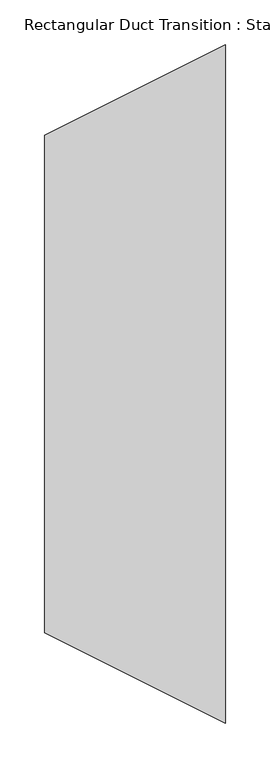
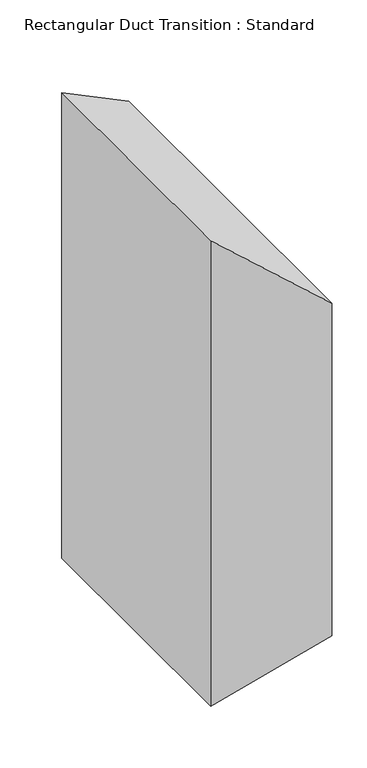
"""IFC4 building model written with IfcOpenShell, lengths in millimetres: duct fitting geometry, Rectangular Duct Transition : Standard."""

import ifcopenshell
import ifcopenshell.guid

model = None  # the IFC model being written
_history = None  # IfcOwnerHistory: only IFC2X3 demands one
_inside = {}  # id of a spatial element -> (the spatial element, [elements in it])
_under = {}  # id of a project, library or spatial element -> (it, [spatial elements below it])
_declared = {}  # id of a project -> (the project, [libraries it declares])
_typed = {}  # id of a type object -> (the type object, [elements of that type])
_made_of = {}  # id of a material, layer set ... -> (it, [elements and type objects made of it])


def new_model(schema):
    """Start an empty IFC model of exactly this schema.

    Asked for "IFC4X3", IfcOpenShell would pick the latest addendum, in which some entities
    have other attributes; the version numbers below select the first issue.
    IFC2X3 requires an IfcOwnerHistory on every rooted entity: one is made here for all.
    """
    global model, _history
    if schema == "IFC4X3":
        model = ifcopenshell.file(schema_version=(4, 3, 0, 0))
    else:
        model = ifcopenshell.file(schema=schema)
    _inside.clear()
    _under.clear()
    _declared.clear()
    _typed.clear()
    _made_of.clear()
    _history = None
    if model.schema == "IFC2X3":
        org = make("IfcOrganization", Name="unknown")
        user = make(
            "IfcPersonAndOrganization",
            ThePerson=make("IfcPerson", FamilyName="unknown"),
            TheOrganization=org,
        )
        app = make(
            "IfcApplication",
            ApplicationDeveloper=org,
            Version="unknown",
            ApplicationFullName="unknown",
            ApplicationIdentifier="unknown",
        )
        _history = make(
            "IfcOwnerHistory",
            OwningUser=user,
            OwningApplication=app,
            ChangeAction="ADDED",
            CreationDate=0,
        )
    return model


def make(cls, **values):
    """One entity of the class cls with the attributes given. An attribute that is None is left unset."""
    return model.create_entity(
        cls, **{name: value for name, value in values.items() if value is not None}
    )


def rooted(cls, **values):
    """An entity with a GlobalId (a new one), such as an element, a storey or a relation."""
    return make(cls, GlobalId=ifcopenshell.guid.new(), OwnerHistory=_history, **values)


def si_unit(unit_type, name, prefix=None):
    """IfcSIUnit, for example si_unit("LENGTHUNIT", "METRE", prefix="MILLI")."""
    return make("IfcSIUnit", UnitType=unit_type, Prefix=prefix, Name=name)


def assignment(units):
    """IfcUnitAssignment: the units of a project."""
    return None if units is None else make("IfcUnitAssignment", Units=units)


def point(xyz):
    """IfcCartesianPoint."""
    return None if xyz is None else make("IfcCartesianPoint", Coordinates=xyz)


def direction(xyz):
    """IfcDirection."""
    return None if xyz is None else make("IfcDirection", DirectionRatios=xyz)


def frame(location, z_axis=None, x_axis=None):
    """IfcAxis2Placement3D, a coordinate frame: its origin and axes. An axis left out is left unset."""
    return make(
        "IfcAxis2Placement3D",
        Location=point(location),
        Axis=direction(z_axis),
        RefDirection=direction(x_axis),
    )


def origin():
    """The frame at (0, 0, 0) with its axes left unset."""
    return frame((0.0, 0.0, 0.0))


def place(relative_to, where):
    """IfcLocalPlacement: puts the frame where relative to a parent placement (None: the world)."""
    return make(
        "IfcLocalPlacement", PlacementRelTo=relative_to, RelativePlacement=where
    )


def context(
    kind, dimensions, precision=None, world=None, true_north=None, identifier=None
):
    """IfcGeometricRepresentationContext, for example the 3D "Model" context."""
    return make(
        "IfcGeometricRepresentationContext",
        ContextIdentifier=identifier,
        ContextType=kind,
        CoordinateSpaceDimension=dimensions,
        Precision=precision,
        WorldCoordinateSystem=world,
        TrueNorth=true_north,
    )


def project(units=None, contexts=None):
    """IfcProject with its units and contexts."""
    return rooted(
        "IfcProject",
        Name="project",
        RepresentationContexts=contexts,
        UnitsInContext=assignment(units),
    )


def spatial(cls, under=None, at=None, **own):
    """A site, building, storey or space (cls), placed at a placement, below another one or the project."""
    s = rooted(cls, ObjectPlacement=at, **own)
    if under is not None:
        _under.setdefault(under.id(), (under, []))[1].append(s)
    return s


def faces_of(points, faces, orient=None, outer=None):
    """IfcFace entities. A face is a list of loops; a loop is a list of indices into points, from 0.

    orient and outer hold one flag for each loop. By default every Orientation is true, the
    first loop of a face is its IfcFaceOuterBound and the others are IfcFaceBound.
    """
    made = []
    for i, loops in enumerate(faces):
        bounds = []
        for j, loop in enumerate(loops):
            is_outer = j == 0 if outer is None else outer[i][j]
            bounds.append(
                make(
                    "IfcFaceOuterBound" if is_outer else "IfcFaceBound",
                    Bound=make("IfcPolyLoop", Polygon=[points[k] for k in loop]),
                    Orientation=True if orient is None else orient[i][j],
                )
            )
        made.append(make("IfcFace", Bounds=bounds))
    return made


def faceted_brep(points, faces, orient=None, outer=None, voids=None):
    """IfcFacetedBrep: a solid bounded by flat faces; with voids (closed shells), ...WithVoids."""
    shared = [point(p) for p in points]
    hull = make("IfcClosedShell", CfsFaces=faces_of(shared, faces, orient, outer))
    if voids is None:
        return make("IfcFacetedBrep", Outer=hull)
    return make(
        "IfcFacetedBrepWithVoids",
        Outer=hull,
        Voids=[
            make(cls, CfsFaces=faces_of(shared, fs, o, b)) for cls, fs, o, b in voids
        ],
    )


def shape(context_of_items, identifier, shape_type, items):
    """IfcShapeRepresentation: the items that make up one representation, for example the "Body"."""
    return make(
        "IfcShapeRepresentation",
        ContextOfItems=context_of_items,
        RepresentationIdentifier=identifier,
        RepresentationType=shape_type,
        Items=items,
    )


def source(mapping_origin, context_of_items, identifier, shape_type, items):
    """IfcRepresentationMap: a shape defined once, which mapped items show again and again."""
    return make(
        "IfcRepresentationMap",
        MappingOrigin=mapping_origin,
        MappedRepresentation=shape(context_of_items, identifier, shape_type, items),
    )


def transform(
    local_origin,
    x_axis=None,
    y_axis=None,
    z_axis=None,
    scale=None,
    scale2=None,
    scale3=None,
    uniform=True,
):
    """IfcCartesianTransformationOperator3D, or its non-uniform kind. x_axis, y_axis, z_axis: its Axis1, 2, 3."""
    if uniform:
        return make(
            "IfcCartesianTransformationOperator3D",
            Axis1=direction(x_axis),
            Axis2=direction(y_axis),
            LocalOrigin=point(local_origin),
            Scale=scale,
            Axis3=direction(z_axis),
        )
    return make(
        "IfcCartesianTransformationOperator3DnonUniform",
        Axis1=direction(x_axis),
        Axis2=direction(y_axis),
        LocalOrigin=point(local_origin),
        Scale=scale,
        Axis3=direction(z_axis),
        Scale2=scale2,
        Scale3=scale3,
    )


def mapped(mapping_source, mapping_target):
    """IfcMappedItem: shows the shape of a source again, moved by a transform."""
    return make(
        "IfcMappedItem", MappingSource=mapping_source, MappingTarget=mapping_target
    )


def made_of(thing, what):
    """Note that an element or type object is made of a material, layer set ...; save() writes the relation."""
    if what is not None:
        _made_of.setdefault(what.id(), (what, []))[1].append(thing)
    return thing


def element(
    cls,
    number,
    at=None,
    inside=None,
    cuts=None,
    type_object=None,
    material=None,
    context=None,
    identifier="Body",
    shape_type=None,
    held_by="IfcProductDefinitionShape",
    body=None,
    shapes=None,
    **own,
):
    """One element of the class cls, such as IfcWall. Its Tag is "e" and its number.

    at: its placement. inside: the storey or other place that contains it. cuts: it is an
    opening in that element (IfcRelVoidsElement). A single representation is given by context,
    identifier, shape_type and body (its items); several are given by shapes. held_by: the class
    of the entity that holds the representations. save() writes the other relations.
    """
    e = rooted(cls, Tag="e%d" % number, ObjectPlacement=at, **own)
    if body is not None:
        shapes = [shape(context, identifier, shape_type, body)]
    if shapes is not None:
        e.Representation = make(held_by, Representations=shapes)
    if inside is not None:
        _inside.setdefault(inside.id(), (inside, []))[1].append(e)
    if cuts is not None:
        rooted(
            "IfcRelVoidsElement", RelatingBuildingElement=cuts, RelatedOpeningElement=e
        )
    if type_object is not None:
        _typed.setdefault(type_object.id(), (type_object, []))[1].append(e)
    return made_of(e, material)


def aggregate(whole, parts):
    """IfcRelAggregates: a whole, such as a stair, and the parts it consists of."""
    return rooted("IfcRelAggregates", RelatingObject=whole, RelatedObjects=parts)


def save(model, path):
    """Write the relations noted so far, then the file.

    IfcRelAggregates (storeys below a building ...), IfcRelContainedInSpatialStructure (elements
    in a storey), IfcRelDefinesByType, IfcRelAssociatesMaterial and IfcRelDeclares: one each for
    every whole, place, type object, material and project.
    """
    for whole, parts in _under.values():
        aggregate(whole, parts)
    for where, things in _inside.values():
        rooted(
            "IfcRelContainedInSpatialStructure",
            RelatedElements=things,
            RelatingStructure=where,
        )
    for kind, things in _typed.values():
        rooted("IfcRelDefinesByType", RelatedObjects=things, RelatingType=kind)
    for what, things in _made_of.values():
        rooted("IfcRelAssociatesMaterial", RelatedObjects=things, RelatingMaterial=what)
    for by, libraries in _declared.values():
        rooted("IfcRelDeclares", RelatingContext=by, RelatedDefinitions=libraries)
    model.write(path)


def rectangular_duct_transition_standard_40ad1b43(model_context):
    return source(origin(), model_context, "Body", "Brep", [
        faceted_brep([(203.2, -381.0, 381.0), (203.2, -381.0, -381.0), (203.2, 381.0, -381.0), (203.2, 381.0, 381.0), (0.0, -279.4, 533.4), (0.0, 279.4, 533.4), (0.0, 279.4, -533.4), (0.0, -279.4, -533.4)], [[[0, 1, 2, 3]], [[4, 5, 6, 7]], [[4, 7, 1, 0]], [[7, 6, 2, 1]], [[6, 5, 3, 2]], [[5, 4, 0, 3]]]),
        faceted_brep([(203.2, -381.0, 381.0), (203.2, -381.0, -381.0), (203.2, 381.0, -381.0), (203.2, 381.0, 381.0), (0.0, -279.4, 533.4), (0.0, 279.4, 533.4), (0.0, 279.4, -533.4), (0.0, -279.4, -533.4)], [[[0, 1, 2, 3]], [[4, 5, 6, 7]], [[4, 7, 1, 0]], [[7, 6, 2, 1]], [[6, 5, 3, 2]], [[5, 4, 0, 3]]]),
        faceted_brep([(203.2, -381.0, 381.0), (203.2, -381.0, -381.0), (203.2, 381.0, -381.0), (203.2, 381.0, 381.0), (0.0, -279.4, 533.4), (0.0, 279.4, 533.4), (0.0, 279.4, -533.4), (0.0, -279.4, -533.4)], [[[0, 1, 2, 3]], [[4, 5, 6, 7]], [[4, 7, 1, 0]], [[7, 6, 2, 1]], [[6, 5, 3, 2]], [[5, 4, 0, 3]]]),
    ])


if __name__ == "__main__":
    model = new_model("IFC4")
    model_context = context("Model", 3, world=origin())
    ifc_project = project(units=[si_unit("LENGTHUNIT", "METRE", prefix="MILLI")], contexts=[model_context])
    site = spatial("IfcSite", under=ifc_project)
    building = spatial("IfcBuilding", under=site)
    placement = place(None, origin())
    rectangular_duct_transition_standard_shape = rectangular_duct_transition_standard_40ad1b43(model_context)
    element("IfcDuctFitting", 1, ObjectType="Rectangular Duct Transition : Standard", at=placement, inside=building, context=model_context, shape_type="MappedRepresentation", body=[
        mapped(rectangular_duct_transition_standard_shape, transform((0.0, 0.0, 0.0), x_axis=(1.0, 0.0, 0.0), y_axis=(0.0, 1.0, 0.0), z_axis=(0.0, 0.0, 1.0))),
    ])
    save(model, "model.ifc")
